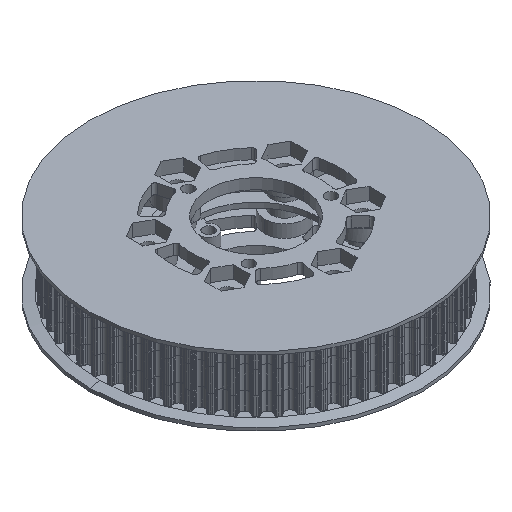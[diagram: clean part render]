
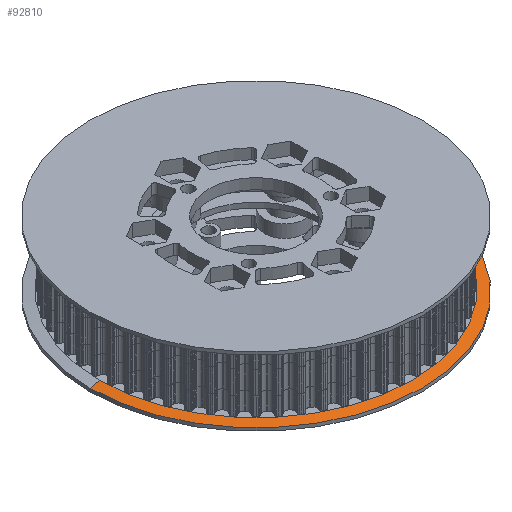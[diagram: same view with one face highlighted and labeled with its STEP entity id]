
A CAD part, isometric view. The second image highlights one B-rep face of the part: STEP entity #92810.
In plain terms, the highlighted conical face has half-angle 80 degrees and reference radius 50.5 mm.
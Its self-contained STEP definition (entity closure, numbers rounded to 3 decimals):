
#3356 = DIRECTION ( 'NONE',  ( 1., 0., 0. ) ) ;
#9260 = CARTESIAN_POINT ( 'NONE',  ( 50.5, 0., 0.616 ) ) ;
#11936 = FACE_OUTER_BOUND ( 'NONE', #43538, .T. ) ;
#12274 = ORIENTED_EDGE ( 'NONE', *, *, #49873, .T. ) ;
#14997 = DIRECTION ( 'NONE',  ( -0.985, 0., 0.174 ) ) ;
#18219 = CARTESIAN_POINT ( 'NONE',  ( 47.5, 0., 0.087 ) ) ;
#21608 = VERTEX_POINT ( 'NONE', #39671 ) ;
#24795 = VERTEX_POINT ( 'NONE', #67713 ) ;
#29392 = CONICAL_SURFACE ( 'NONE', #73795, 50.5, 1.396 ) ;
#32509 = CARTESIAN_POINT ( 'NONE',  ( 0., 0., 0.087 ) ) ;
#35460 = ORIENTED_EDGE ( 'NONE', *, *, #37971, .F. ) ;
#37971 = EDGE_CURVE ( 'NONE', #82342, #24795, #86235, .T. ) ;
#39671 = CARTESIAN_POINT ( 'NONE',  ( -47.5, 0., 0.087 ) ) ;
#39966 = DIRECTION ( 'NONE',  ( 1., 0., 0. ) ) ;
#43496 = LINE ( 'NONE', #9260, #96019 ) ;
#43538 = EDGE_LOOP ( 'NONE', ( #75194, #91255, #12274, #35460 ) ) ;
#43991 = DIRECTION ( 'NONE',  ( 0., 0., 1. ) ) ;
#48128 = AXIS2_PLACEMENT_3D ( 'NONE', #88627, #43991, #96173 ) ;
#49873 = EDGE_CURVE ( 'NONE', #95857, #24795, #43496, .T. ) ;
#55201 = DIRECTION ( 'NONE',  ( 0., 0., 1. ) ) ;
#64396 = EDGE_CURVE ( 'NONE', #21608, #82342, #84141, .T. ) ;
#67169 = CARTESIAN_POINT ( 'NONE',  ( -50.5, 0., 0.616 ) ) ;
#67713 = CARTESIAN_POINT ( 'NONE',  ( 50.5, 0., 0.616 ) ) ;
#68965 = VECTOR ( 'NONE', #14997, 1000. ) ;
#71812 = EDGE_CURVE ( 'NONE', #95857, #21608, #86462, .T. ) ;
#73795 = AXIS2_PLACEMENT_3D ( 'NONE', #85160, #55201, #3356 ) ;
#73844 = CARTESIAN_POINT ( 'NONE',  ( -50.5, 0., 0.616 ) ) ;
#75194 = ORIENTED_EDGE ( 'NONE', *, *, #64396, .F. ) ;
#76502 = AXIS2_PLACEMENT_3D ( 'NONE', #32509, #84694, #39966 ) ;
#82342 = VERTEX_POINT ( 'NONE', #73844 ) ;
#83534 = DIRECTION ( 'NONE',  ( 0.985, 0., 0.174 ) ) ;
#84141 = LINE ( 'NONE', #67169, #68965 ) ;
#84694 = DIRECTION ( 'NONE',  ( 0., 0., -1. ) ) ;
#85160 = CARTESIAN_POINT ( 'NONE',  ( 0., 0., 0.616 ) ) ;
#86235 = CIRCLE ( 'NONE', #48128, 50.5 ) ;
#86462 = CIRCLE ( 'NONE', #76502, 47.5 ) ;
#88627 = CARTESIAN_POINT ( 'NONE',  ( 0., 0., 0.616 ) ) ;
#91255 = ORIENTED_EDGE ( 'NONE', *, *, #71812, .F. ) ;
#92810 = ADVANCED_FACE ( 'NONE', ( #11936 ), #29392, .T. ) ;
#95857 = VERTEX_POINT ( 'NONE', #18219 ) ;
#96019 = VECTOR ( 'NONE', #83534, 1000. ) ;
#96173 = DIRECTION ( 'NONE',  ( 1., 0., 0. ) ) ;
